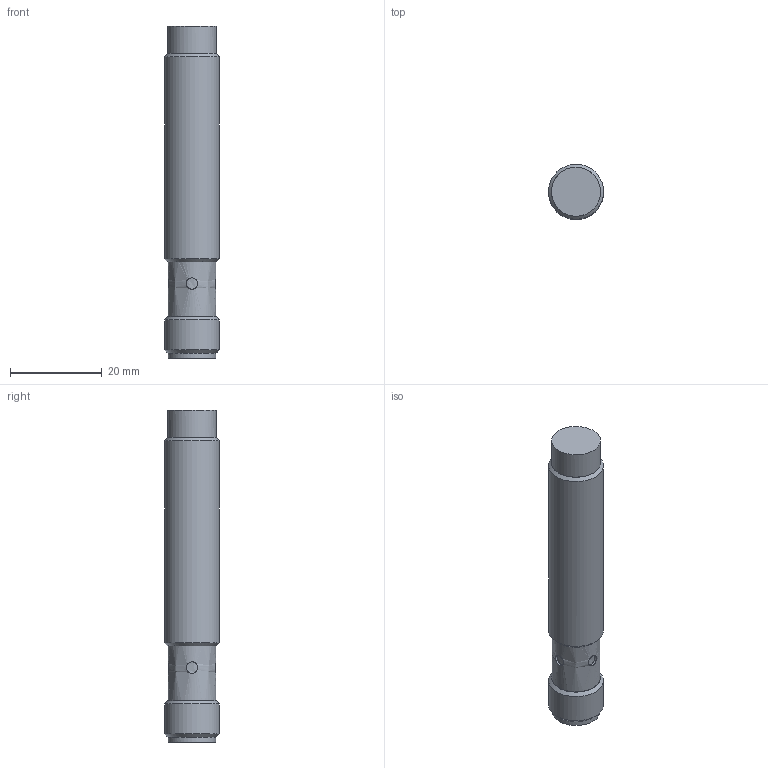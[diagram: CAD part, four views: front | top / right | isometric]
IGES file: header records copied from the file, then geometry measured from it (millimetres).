
Global section: file name: d:\cs\DSD-0295.igs; preprocessor: I-DEAS 3D IGES Translator 13; date: 20130509.145156; units: millimetre
Bounding box: 12 x 11.97 x 72.5 mm (x, y, z)
Volume: 7272.1 mm3; surface area: 3211.7 mm2
Topology: 1 solids, 1 shells, 41 faces, 75 edges, 47 vertices
Faces by surface type: bspline 41
